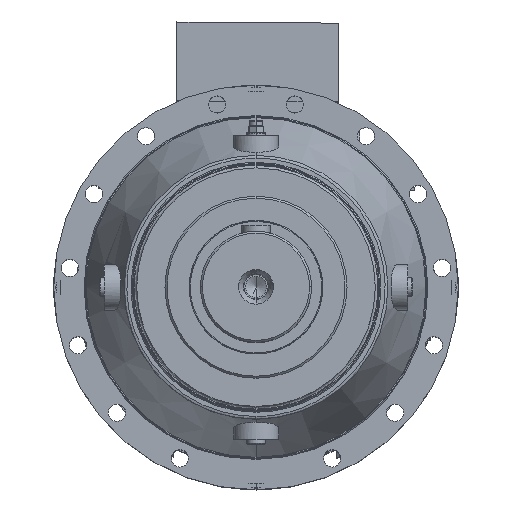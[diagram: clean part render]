
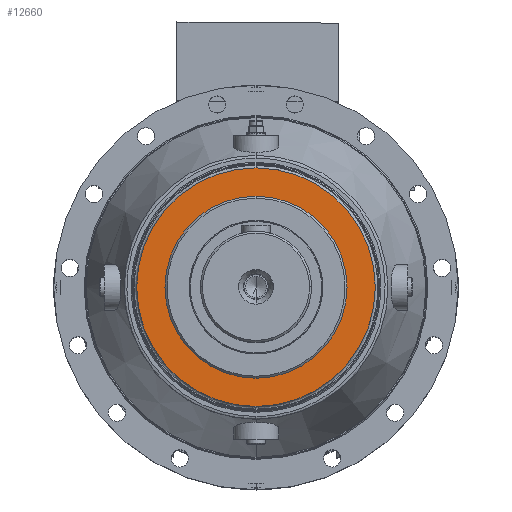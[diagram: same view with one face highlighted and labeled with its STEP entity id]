
A CAD part, top view. The second image highlights one B-rep face of the part: STEP entity #12660.
In plain terms, the highlighted planar face has unit normal (0, 0, 1).
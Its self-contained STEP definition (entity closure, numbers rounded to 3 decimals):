
#6441 = EDGE_CURVE ( 'NONE', #30901, #30926, #11507, .T. ) ;
#6562 = EDGE_CURVE ( 'NONE', #25850, #30932, #11671, .T. ) ;
#6597 = EDGE_CURVE ( 'NONE', #30926, #30901, #11618, .T. ) ;
#6666 = EDGE_CURVE ( 'NONE', #30932, #25850, #11696, .T. ) ;
#11507 = CIRCLE ( 'NONE', #104124, 118. ) ;
#11618 = CIRCLE ( 'NONE', #104166, 118. ) ;
#11671 = CIRCLE ( 'NONE', #104154, 90. ) ;
#11696 = CIRCLE ( 'NONE', #104092, 90. ) ;
#12660 = ADVANCED_FACE ( 'NONE', ( #17743, #17747 ), #14104, .F. ) ;
#14081 = DIRECTION ( 'NONE',  ( 0., 1., 0. ) ) ;
#14092 = CARTESIAN_POINT ( 'NONE',  ( 0., 118., 175. ) ) ;
#14104 = PLANE ( 'NONE',  #104651 ) ;
#14114 = DIRECTION ( 'NONE',  ( 0., 0., -1. ) ) ;
#14993 = EDGE_LOOP ( 'NONE', ( #54224, #54310 ) ) ;
#14995 = EDGE_LOOP ( 'NONE', ( #54353, #54212 ) ) ;
#17743 = FACE_BOUND ( 'NONE', #14993, .T. ) ;
#17747 = FACE_OUTER_BOUND ( 'NONE', #14995, .T. ) ;
#22196 = CARTESIAN_POINT ( 'NONE',  ( 0., 0., 175. ) ) ;
#22406 = DIRECTION ( 'NONE',  ( 0., 1., 0. ) ) ;
#22420 = DIRECTION ( 'NONE',  ( 0., 0., -1. ) ) ;
#22568 = CARTESIAN_POINT ( 'NONE',  ( 0., 0., 175. ) ) ;
#22569 = DIRECTION ( 'NONE',  ( 0., 1., 0. ) ) ;
#22574 = DIRECTION ( 'NONE',  ( 0., 0., 1. ) ) ;
#22735 = DIRECTION ( 'NONE',  ( 0., 1., 0. ) ) ;
#22743 = CARTESIAN_POINT ( 'NONE',  ( 0., 0., 175. ) ) ;
#22744 = DIRECTION ( 'NONE',  ( 0., 0., 1. ) ) ;
#23445 = DIRECTION ( 'NONE',  ( 0., 0., -1. ) ) ;
#23446 = DIRECTION ( 'NONE',  ( 0., 1., 0. ) ) ;
#23450 = CARTESIAN_POINT ( 'NONE',  ( 0., 0., 175. ) ) ;
#23929 = CARTESIAN_POINT ( 'NONE',  ( 0., 90., 175. ) ) ;
#24345 = CARTESIAN_POINT ( 'NONE',  ( 0., 118., 175. ) ) ;
#24396 = CARTESIAN_POINT ( 'NONE',  ( 0., -90., 175. ) ) ;
#24429 = CARTESIAN_POINT ( 'NONE',  ( 0., -118., 175. ) ) ;
#25850 = VERTEX_POINT ( 'NONE', #23929 ) ;
#30901 = VERTEX_POINT ( 'NONE', #24345 ) ;
#30926 = VERTEX_POINT ( 'NONE', #24429 ) ;
#30932 = VERTEX_POINT ( 'NONE', #24396 ) ;
#54212 = ORIENTED_EDGE ( 'NONE', *, *, #6441, .F. ) ;
#54224 = ORIENTED_EDGE ( 'NONE', *, *, #6562, .F. ) ;
#54310 = ORIENTED_EDGE ( 'NONE', *, *, #6666, .F. ) ;
#54353 = ORIENTED_EDGE ( 'NONE', *, *, #6597, .F. ) ;
#104092 = AXIS2_PLACEMENT_3D ( 'NONE', #22568, #22574, #22569 ) ;
#104124 = AXIS2_PLACEMENT_3D ( 'NONE', #23450, #23445, #23446 ) ;
#104154 = AXIS2_PLACEMENT_3D ( 'NONE', #22743, #22744, #22735 ) ;
#104166 = AXIS2_PLACEMENT_3D ( 'NONE', #22196, #22420, #22406 ) ;
#104651 = AXIS2_PLACEMENT_3D ( 'NONE', #14092, #14114, #14081 ) ;
